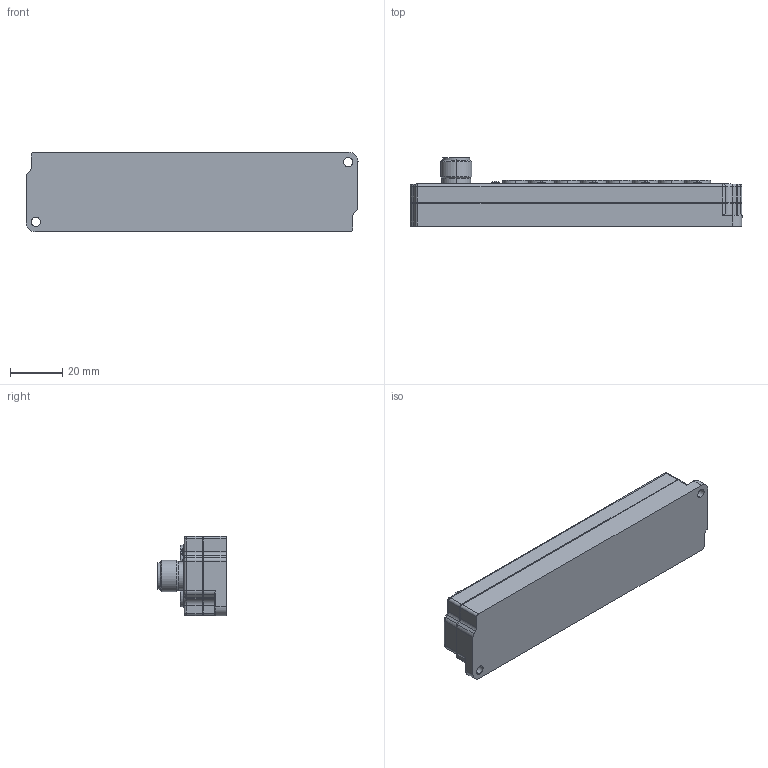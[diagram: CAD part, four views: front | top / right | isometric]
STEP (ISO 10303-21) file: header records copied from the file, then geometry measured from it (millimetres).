
FILE_DESCRIPTION (( 'STEP AP214' ), '1' );
FILE_NAME ('AJB8M8-3N-M16.STEP', '2019-12-16T02:34:42', ( '微软用户' ), ( '微软中国' ), 'SwSTEP 2.0', 'SolidWorks 2016', '' );
FILE_SCHEMA (( 'AUTOMOTIVE_DESIGN' ));
Length unit declared in the file: millimetre
Products named in the file (1): AJB8M8-3N-M16
Bounding box: 127.5 x 26.3 x 30.5 mm (x, y, z)
Volume: 61507.9 mm3; surface area: 19714 mm2
Topology: 28 solids, 55 shells, 1065 faces, 2529 edges, 1640 vertices
Faces by surface type: plane 453, cylinder 396, cone 166, sphere 22, bspline 19, torus 9
Entity records: 35036 total; most frequent: CARTESIAN_POINT 9699, DIRECTION 5457, ORIENTED_EDGE 4998, EDGE_CURVE 2499, AXIS2_PLACEMENT_3D 2101, VERTEX_POINT 1624, VECTOR 1255, LINE 1255
